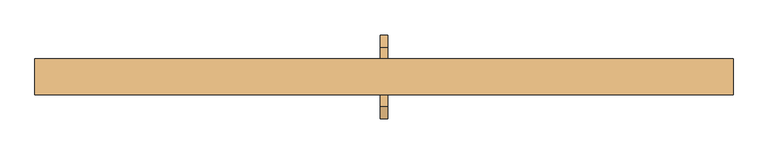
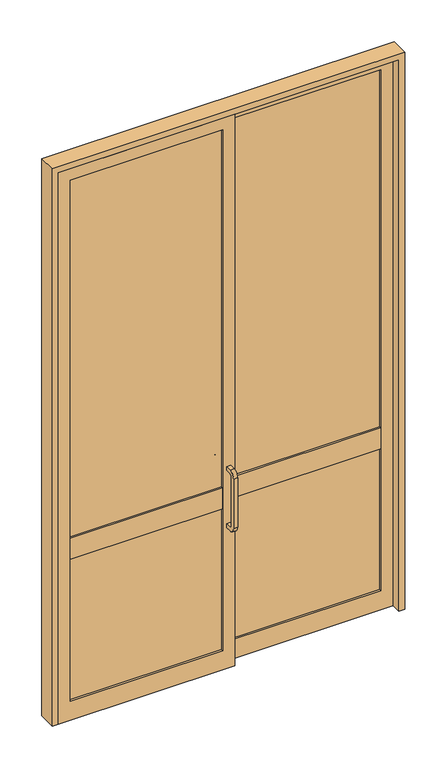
"""IFC4 building model written with IfcOpenShell, lengths in millimetres: door geometry, 门嵌板_70-90 系列双扇推拉铝门 : 90系列有横档."""

from ifc_helpers import new_model, si_unit, point, frame, frame_2d, origin, place, context, project, spatial, polyline, circle_curve, trimmed, segment, composite_curve, outline, extrude, source, transform, mapped, element, save


def door_10a05554(model_context):
    return source(origin(), model_context, "Body", "SweptSolid", [
        extrude(outline(composite_curve([segment(polyline([(45.0, 740.0), (45.0, 760.0), (75.0, 760.0)]), True, "CONTINUOUS"), segment(trimmed(circle_curve(frame_2d((75.0, 770.0)), 10.0), [point((75.0, 760.0))], [point((85.0, 770.0))], True, "CARTESIAN"), True, "CONTINUOUS"), segment(polyline([(85.0, 770.0), (85.0, 1030.0)]), True, "CONTINUOUS"), segment(trimmed(circle_curve(frame_2d((75.0, 1030.0)), 10.0), [point((85.0, 1030.0))], [point((75.0, 1040.0))], True, "CARTESIAN"), True, "CONTINUOUS"), segment(polyline([(75.0, 1040.0), (45.0, 1040.0), (45.0, 1060.0), (75.0, 1060.0)]), True, "CONTINUOUS"), segment(trimmed(circle_curve(frame_2d((75.0, 1030.0)), 30.0), [point((75.0, 1060.0))], [point((105.0, 1030.0))], False, "CARTESIAN"), True, "CONTINUOUS"), segment(polyline([(105.0, 1030.0), (105.0, 770.0)]), True, "CONTINUOUS"), segment(trimmed(circle_curve(frame_2d((75.0, 770.0)), 30.0), [point((105.0, 770.0))], [point((75.0, 740.0))], False, "CARTESIAN"), True, "CONTINUOUS"), segment(polyline([(75.0, 740.0), (45.0, 740.0)]), True, "CONTINUOUS")], self_intersect=False)), frame((-10.0, 0.0, 0.0), z_axis=(1.0, 0.0, 0.0), x_axis=(0.0, 1.0, 0.0)), (0.0, 0.0, 1.0), 20.0),
        extrude(outline(composite_curve([segment(polyline([(-45.0, 760.0), (-45.0, 740.0), (-75.0, 740.0)]), True, "CONTINUOUS"), segment(trimmed(circle_curve(frame_2d((-75.0, 770.0)), 30.0), [point((-75.0, 740.0))], [point((-105.0, 770.0))], False, "CARTESIAN"), True, "CONTINUOUS"), segment(polyline([(-105.0, 770.0), (-105.0, 1030.0)]), True, "CONTINUOUS"), segment(trimmed(circle_curve(frame_2d((-75.0, 1030.0)), 30.0), [point((-105.0, 1030.0))], [point((-75.0, 1060.0))], False, "CARTESIAN"), True, "CONTINUOUS"), segment(polyline([(-75.0, 1060.0), (-45.0, 1060.0), (-45.0, 1040.0), (-75.0, 1040.0)]), True, "CONTINUOUS"), segment(trimmed(circle_curve(frame_2d((-75.0, 1030.0)), 10.0), [point((-75.0, 1040.0))], [point((-85.0, 1030.0))], True, "CARTESIAN"), True, "CONTINUOUS"), segment(polyline([(-85.0, 1030.0), (-85.0, 770.0)]), True, "CONTINUOUS"), segment(trimmed(circle_curve(frame_2d((-75.0, 770.0)), 10.0), [point((-85.0, 770.0))], [point((-75.0, 760.0))], True, "CARTESIAN"), True, "CONTINUOUS"), segment(polyline([(-75.0, 760.0), (-45.0, 760.0)]), True, "CONTINUOUS")], self_intersect=False)), frame((-10.0, 0.0, 0.0), z_axis=(1.0, 0.0, 0.0), x_axis=(0.0, 1.0, 0.0)), (0.0, 0.0, 1.0), 20.0),
        extrude(outline(polyline([(0.0, 845.0), (2895.0, 845.0), (2895.0, -30.0), (0.0, -30.0), (0.0, 845.0)]), holes=[polyline([(2835.0, 30.0), (2835.0, 785.0), (100.0, 785.0), (100.0, 30.0), (2835.0, 30.0)])]), frame((0.0, 5.0, 0.0), z_axis=(0.0, 1.0, 0.0), x_axis=(0.0, 0.0, 1.0)), (0.0, 0.0, 1.0), 40.0),
        extrude(outline(polyline([(0.0, -845.0), (0.0, 30.0), (2895.0, 30.0), (2895.0, -845.0), (0.0, -845.0)]), holes=[polyline([(100.0, -785.0), (2835.0, -785.0), (2835.0, -30.0), (100.0, -30.0), (100.0, -785.0)])]), frame((0.0, -45.0, 0.0), z_axis=(0.0, 1.0, 0.0), x_axis=(0.0, 0.0, 1.0)), (0.0, 0.0, 1.0), 40.0),
        extrude(outline(polyline([(785.0, 35.0), (785.0, 15.0), (30.0, 15.0), (30.0, 35.0), (785.0, 35.0)])), frame((0.0, 0.0, 955.0), z_axis=(0.0, 0.0, 1.0), x_axis=(1.0, 0.0, 0.0)), (0.0, 0.0, 1.0), 1880.0),
        extrude(outline(polyline([(785.0, 35.0), (785.0, 15.0), (30.0, 15.0), (30.0, 35.0), (785.0, 35.0)])), frame((0.0, 0.0, 100.0), z_axis=(0.0, 0.0, 1.0), x_axis=(1.0, 0.0, 0.0)), (0.0, 0.0, 1.0), 745.0),
        extrude(outline(polyline([(-30.0, -15.0), (-30.0, -35.0), (-785.0, -35.0), (-785.0, -15.0), (-30.0, -15.0)])), frame((0.0, 0.0, 955.0), z_axis=(0.0, 0.0, 1.0), x_axis=(1.0, 0.0, 0.0)), (0.0, 0.0, 1.0), 1880.0),
        extrude(outline(polyline([(-30.0, -15.0), (-30.0, -35.0), (-785.0, -35.0), (-785.0, -15.0), (-30.0, -15.0)])), frame((0.0, 0.0, 100.0), z_axis=(0.0, 0.0, 1.0), x_axis=(1.0, 0.0, 0.0)), (0.0, 0.0, 1.0), 745.0),
        extrude(outline(polyline([(-30.0, -45.0), (-785.0, -45.0), (-785.0, -5.0), (-30.0, -5.0), (-30.0, -45.0)])), frame((0.0, 0.0, 845.0), z_axis=(0.0, 0.0, 1.0), x_axis=(1.0, 0.0, 0.0)), (0.0, 0.0, 1.0), 110.0),
        extrude(outline(polyline([(785.0, 5.0), (30.0, 5.0), (30.0, 45.0), (785.0, 45.0), (785.0, 5.0)])), frame((0.0, 0.0, 845.0), z_axis=(0.0, 0.0, 1.0), x_axis=(1.0, 0.0, 0.0)), (0.0, 0.0, 1.0), 110.0),
        extrude(outline(polyline([(0.0, 875.0), (2925.0, 875.0), (2925.0, -875.0), (0.0, -875.0), (0.0, -845.0), (2895.0, -845.0), (2895.0, 845.0), (0.0, 845.0), (0.0, 875.0)])), frame((0.0, -45.0, 0.0), z_axis=(0.0, 1.0, 0.0), x_axis=(0.0, 0.0, 1.0)), (0.0, 0.0, 1.0), 90.0),
    ])


if __name__ == "__main__":
    model = new_model("IFC4")
    model_context = context("Model", 3, world=origin())
    ifc_project = project(units=[si_unit("LENGTHUNIT", "METRE", prefix="MILLI")], contexts=[model_context])
    site = spatial("IfcSite", under=ifc_project)
    building = spatial("IfcBuilding", under=site)
    placement = place(None, origin())
    door_shape = door_10a05554(model_context)
    element("IfcDoor", 1, ObjectType="门嵌板_70-90 系列双扇推拉铝门 : 90系列有横档", at=placement, inside=building, context=model_context, shape_type="MappedRepresentation", body=[
        mapped(door_shape, transform((0.0, 0.0, 0.0), x_axis=(1.0, 0.0, 0.0), y_axis=(0.0, 1.0, 0.0), z_axis=(0.0, 0.0, 1.0))),
    ])
    save(model, "model.ifc")
